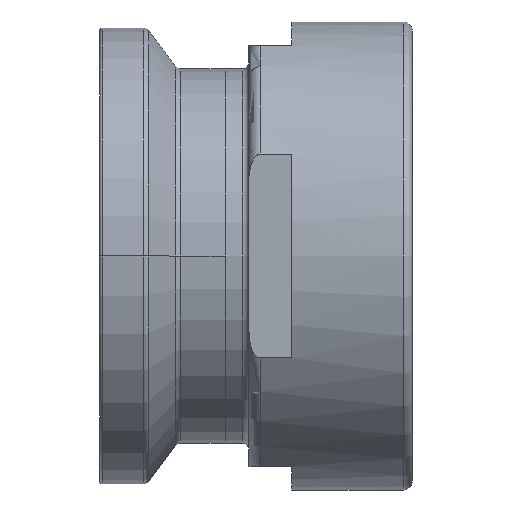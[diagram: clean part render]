
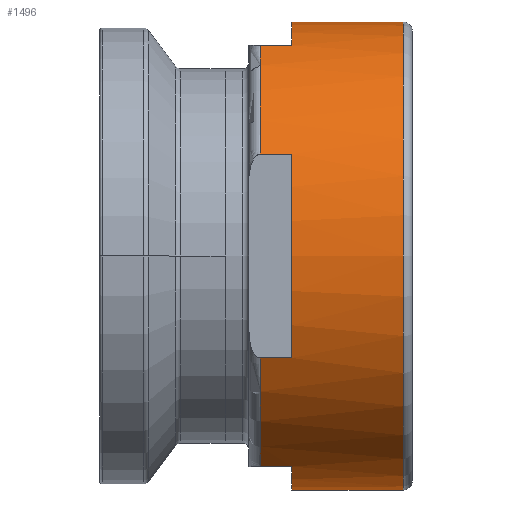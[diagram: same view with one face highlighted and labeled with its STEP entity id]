
A CAD part, front view. The second image highlights one B-rep face of the part: STEP entity #1496.
In plain terms, the highlighted cylindrical face has radius 63.5 mm (diameter 127 mm), a partial arc.
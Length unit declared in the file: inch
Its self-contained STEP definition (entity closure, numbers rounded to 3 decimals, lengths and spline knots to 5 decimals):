
#3 = ORIENTED_EDGE ( 'NONE', *, *, #1708, .T. ) ;
#7 = VERTEX_POINT ( 'NONE', #1860 ) ;
#34 = EDGE_CURVE ( 'NONE', #109, #1725, #206, .T. ) ;
#63 = DIRECTION ( 'NONE',  ( 0., -1., 0. ) ) ;
#77 = CYLINDRICAL_SURFACE ( 'NONE', #703, 2.5 ) ;
#86 = EDGE_CURVE ( 'NONE', #1043, #109, #381, .T. ) ;
#88 = CIRCLE ( 'NONE', #573, 2.5 ) ;
#109 = VERTEX_POINT ( 'NONE', #397 ) ;
#118 = CARTESIAN_POINT ( 'NONE',  ( 1.08972, 0., 2.25 ) ) ;
#137 = DIRECTION ( 'NONE',  ( 0., 1., 0. ) ) ;
#165 = ORIENTED_EDGE ( 'NONE', *, *, #1585, .F. ) ;
#174 = DIRECTION ( 'NONE',  ( 0., 1., 0. ) ) ;
#206 = CIRCLE ( 'NONE', #753, 2.5 ) ;
#218 = EDGE_LOOP ( 'NONE', ( #421, #380, #1456, #1085, #1573, #1257, #1694, #1836, #165, #1219, #3, #551 ) ) ;
#249 = DIRECTION ( 'NONE',  ( 0., -1., 0. ) ) ;
#289 = DIRECTION ( 'NONE',  ( 0., 0., 1. ) ) ;
#290 = DIRECTION ( 'NONE',  ( 0., -1., 0. ) ) ;
#295 = DIRECTION ( 'NONE',  ( 0., 0., 1. ) ) ;
#300 = EDGE_CURVE ( 'NONE', #7, #571, #786, .T. ) ;
#305 = VECTOR ( 'NONE', #290, 39.37008 ) ;
#307 = VECTOR ( 'NONE', #501, 39.37008 ) ;
#308 = CARTESIAN_POINT ( 'NONE',  ( 1.08972, 0.10092, -2.25 ) ) ;
#343 = LINE ( 'NONE', #683, #307 ) ;
#380 = ORIENTED_EDGE ( 'NONE', *, *, #1228, .T. ) ;
#381 = LINE ( 'NONE', #977, #1330 ) ;
#397 = CARTESIAN_POINT ( 'NONE',  ( 2.25, 0.10092, 1.08972 ) ) ;
#404 = CARTESIAN_POINT ( 'NONE',  ( 2.25, 0.10092, -1.08972 ) ) ;
#416 = CARTESIAN_POINT ( 'NONE',  ( 0., 0.437, -2.5 ) ) ;
#421 = ORIENTED_EDGE ( 'NONE', *, *, #1444, .T. ) ;
#442 = VECTOR ( 'NONE', #583, 39.37008 ) ;
#444 = DIRECTION ( 'NONE',  ( 0., 0., 1. ) ) ;
#451 = LINE ( 'NONE', #1674, #305 ) ;
#475 = CARTESIAN_POINT ( 'NONE',  ( 1.08972, 0.437, 2.25 ) ) ;
#501 = DIRECTION ( 'NONE',  ( 0., 1., 0. ) ) ;
#519 = VERTEX_POINT ( 'NONE', #780 ) ;
#551 = ORIENTED_EDGE ( 'NONE', *, *, #1743, .F. ) ;
#571 = VERTEX_POINT ( 'NONE', #475 ) ;
#573 = AXIS2_PLACEMENT_3D ( 'NONE', #1206, #137, #295 ) ;
#583 = DIRECTION ( 'NONE',  ( 0., 1., 0. ) ) ;
#598 = VERTEX_POINT ( 'NONE', #404 ) ;
#616 = CARTESIAN_POINT ( 'NONE',  ( 0., 0.437, 0. ) ) ;
#683 = CARTESIAN_POINT ( 'NONE',  ( 2.25, 0., -1.08972 ) ) ;
#686 = VERTEX_POINT ( 'NONE', #1016 ) ;
#698 = CIRCLE ( 'NONE', #1813, 2.5 ) ;
#703 = AXIS2_PLACEMENT_3D ( 'NONE', #1020, #1167, #1756 ) ;
#721 = VERTEX_POINT ( 'NONE', #416 ) ;
#753 = AXIS2_PLACEMENT_3D ( 'NONE', #809, #63, #1914 ) ;
#761 = CARTESIAN_POINT ( 'NONE',  ( 0., 0., -2.5 ) ) ;
#780 = CARTESIAN_POINT ( 'NONE',  ( 1.08972, 0.437, -2.25 ) ) ;
#786 = CIRCLE ( 'NONE', #1679, 2.5 ) ;
#804 = EDGE_CURVE ( 'NONE', #519, #1820, #1453, .T. ) ;
#809 = CARTESIAN_POINT ( 'NONE',  ( 0., 0.10092, 0. ) ) ;
#893 = DIRECTION ( 'NONE',  ( 0., 0., -1. ) ) ;
#900 = CIRCLE ( 'NONE', #1120, 2.5 ) ;
#901 = CIRCLE ( 'NONE', #1783, 2.5 ) ;
#977 = CARTESIAN_POINT ( 'NONE',  ( 2.25, 0., 1.08972 ) ) ;
#980 = CARTESIAN_POINT ( 'NONE',  ( 0., 1.62592, -2.5 ) ) ;
#996 = VERTEX_POINT ( 'NONE', #1251 ) ;
#1016 = CARTESIAN_POINT ( 'NONE',  ( 2.25, 0.437, -1.08972 ) ) ;
#1020 = CARTESIAN_POINT ( 'NONE',  ( 0., 0., 0. ) ) ;
#1038 = CARTESIAN_POINT ( 'NONE',  ( 0., 0.10092, 0. ) ) ;
#1043 = VERTEX_POINT ( 'NONE', #1535 ) ;
#1085 = ORIENTED_EDGE ( 'NONE', *, *, #1867, .F. ) ;
#1120 = AXIS2_PLACEMENT_3D ( 'NONE', #1293, #1732, #1916 ) ;
#1167 = DIRECTION ( 'NONE',  ( 0., -1., 0. ) ) ;
#1206 = CARTESIAN_POINT ( 'NONE',  ( 0., 0.437, 0. ) ) ;
#1219 = ORIENTED_EDGE ( 'NONE', *, *, #804, .F. ) ;
#1228 = EDGE_CURVE ( 'NONE', #996, #7, #451, .T. ) ;
#1251 = CARTESIAN_POINT ( 'NONE',  ( 0., 1.62592, 2.5 ) ) ;
#1257 = ORIENTED_EDGE ( 'NONE', *, *, #86, .F. ) ;
#1271 = VECTOR ( 'NONE', #249, 39.37008 ) ;
#1293 = CARTESIAN_POINT ( 'NONE',  ( 0., 1.62592, 0. ) ) ;
#1303 = CARTESIAN_POINT ( 'NONE',  ( 1.08972, 0., -2.25 ) ) ;
#1330 = VECTOR ( 'NONE', #1578, 39.37008 ) ;
#1345 = VECTOR ( 'NONE', #1522, 39.37008 ) ;
#1367 = DIRECTION ( 'NONE',  ( 0., 1., 0. ) ) ;
#1372 = LINE ( 'NONE', #761, #1345 ) ;
#1414 = EDGE_CURVE ( 'NONE', #598, #686, #343, .T. ) ;
#1444 = EDGE_CURVE ( 'NONE', #1468, #996, #900, .T. ) ;
#1453 = LINE ( 'NONE', #1303, #1271 ) ;
#1456 = ORIENTED_EDGE ( 'NONE', *, *, #300, .T. ) ;
#1468 = VERTEX_POINT ( 'NONE', #980 ) ;
#1496 = ADVANCED_FACE ( 'NONE', ( #1769 ), #77, .T. ) ;
#1522 = DIRECTION ( 'NONE',  ( 0., -1., 0. ) ) ;
#1535 = CARTESIAN_POINT ( 'NONE',  ( 2.25, 0.437, 1.08972 ) ) ;
#1573 = ORIENTED_EDGE ( 'NONE', *, *, #34, .F. ) ;
#1578 = DIRECTION ( 'NONE',  ( 0., -1., 0. ) ) ;
#1585 = EDGE_CURVE ( 'NONE', #1820, #598, #698, .T. ) ;
#1634 = DIRECTION ( 'NONE',  ( 0., -1., 0. ) ) ;
#1673 = CARTESIAN_POINT ( 'NONE',  ( 0., 0.437, 0. ) ) ;
#1674 = CARTESIAN_POINT ( 'NONE',  ( 0., 0., 2.5 ) ) ;
#1679 = AXIS2_PLACEMENT_3D ( 'NONE', #1673, #1367, #289 ) ;
#1694 = ORIENTED_EDGE ( 'NONE', *, *, #1733, .T. ) ;
#1708 = EDGE_CURVE ( 'NONE', #519, #721, #88, .T. ) ;
#1725 = VERTEX_POINT ( 'NONE', #1853 ) ;
#1732 = DIRECTION ( 'NONE',  ( 0., -1., 0. ) ) ;
#1733 = EDGE_CURVE ( 'NONE', #1043, #686, #901, .T. ) ;
#1743 = EDGE_CURVE ( 'NONE', #1468, #721, #1372, .T. ) ;
#1756 = DIRECTION ( 'NONE',  ( 0., 0., -1. ) ) ;
#1769 = FACE_OUTER_BOUND ( 'NONE', #218, .T. ) ;
#1783 = AXIS2_PLACEMENT_3D ( 'NONE', #616, #174, #444 ) ;
#1794 = LINE ( 'NONE', #118, #442 ) ;
#1813 = AXIS2_PLACEMENT_3D ( 'NONE', #1038, #1634, #893 ) ;
#1820 = VERTEX_POINT ( 'NONE', #308 ) ;
#1836 = ORIENTED_EDGE ( 'NONE', *, *, #1414, .F. ) ;
#1853 = CARTESIAN_POINT ( 'NONE',  ( 1.08972, 0.10092, 2.25 ) ) ;
#1860 = CARTESIAN_POINT ( 'NONE',  ( 0., 0.437, 2.5 ) ) ;
#1867 = EDGE_CURVE ( 'NONE', #1725, #571, #1794, .T. ) ;
#1914 = DIRECTION ( 'NONE',  ( 0., 0., -1. ) ) ;
#1916 = DIRECTION ( 'NONE',  ( 0., 0., -1. ) ) ;
